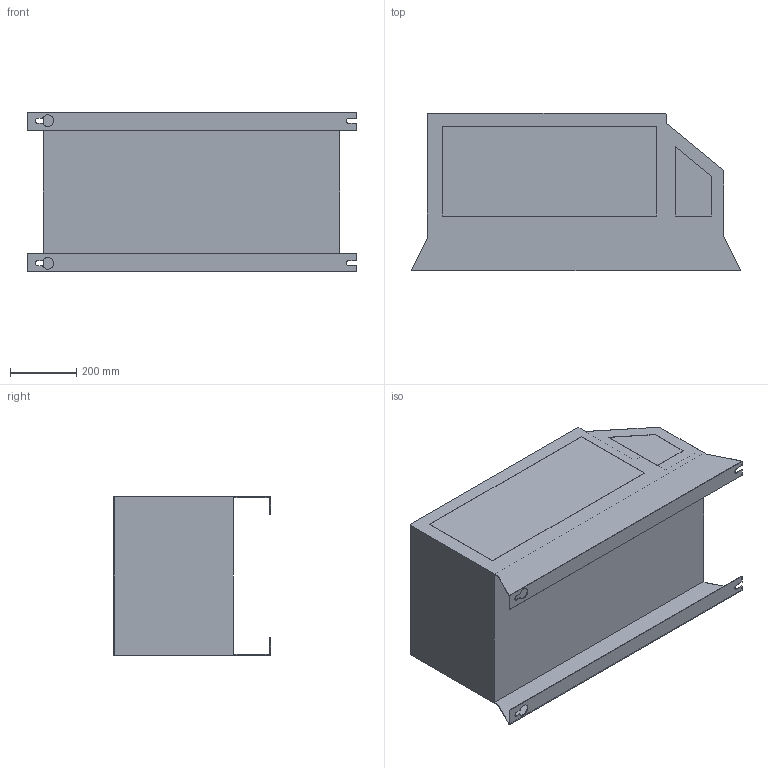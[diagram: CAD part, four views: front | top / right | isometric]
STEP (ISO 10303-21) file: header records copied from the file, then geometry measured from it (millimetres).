
FILE_DESCRIPTION (( 'STEP AP214' ), '1' );
FILE_NAME ('P2ECO S8 IP20.STEP', '2017-08-15T14:29:09', ( '' ), ( '' ), 'SwSTEP 2.0', 'SolidWorks 2017', '' );
FILE_SCHEMA (( 'AUTOMOTIVE_DESIGN' ));
Length unit declared in the file: millimetre
Products named in the file (1): P2ECO S8 IP20
Bounding box: 995 x 476.81 x 480 mm (x, y, z)
Volume: 131315343 mm3; surface area: 2623991.3 mm2
Topology: 1 solids, 1 shells, 929 faces, 2370 edges, 1580 vertices
Faces by surface type: plane 565, bspline 236, cylinder 128
Entity records: 39419 total; most frequent: CARTESIAN_POINT 18979, ORIENTED_EDGE 4740, DIRECTION 3150, EDGE_CURVE 2370, LINE 1642, VECTOR 1642, VERTEX_POINT 1580, EDGE_LOOP 1070
